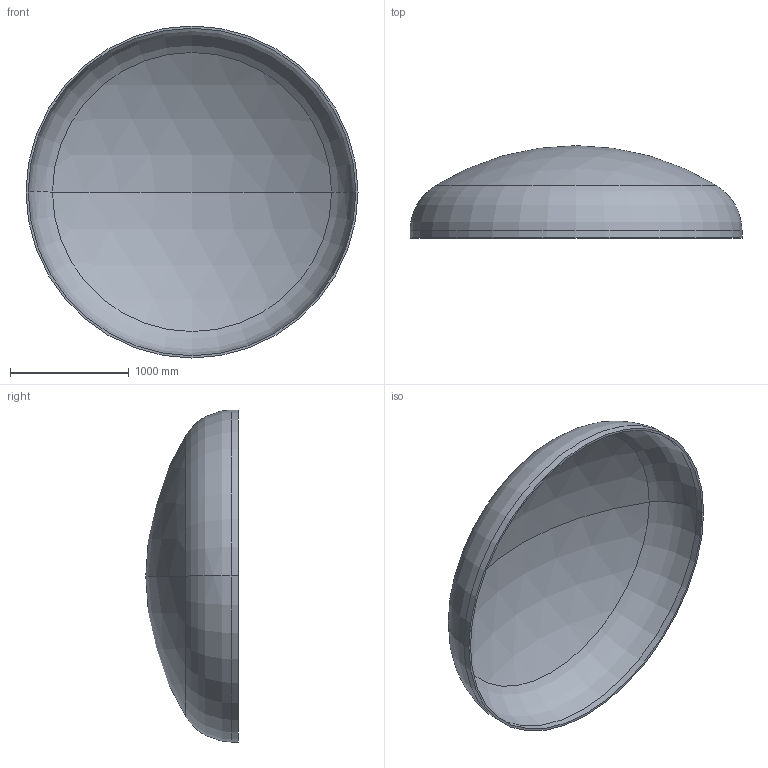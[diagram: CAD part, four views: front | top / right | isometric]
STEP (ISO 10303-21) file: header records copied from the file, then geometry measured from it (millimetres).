
FILE_DESCRIPTION (( 'STEP AP203' ), '1' );
FILE_NAME ('DIN 28013 Korbbogenform_-_Boden DIN 28013 - 2800 x 60 - I - s=19.step', '2016-07-01T16:46:15', ( '' ), ( '' ), 'SwSTEP 2.0', 'SolidWorks 2013', '' );
FILE_SCHEMA (( 'CONFIG_CONTROL_DESIGN' ));
Length unit declared in the file: millimetre
Products named in the file (1): DIN 28013 Korbbogenform_-_Boden DIN 28013 - 2800 x 60 - I - s=19
Bounding box: 2800 x 778.97 x 2800 mm (x, y, z)
Volume: 170461232.8 mm3; surface area: 18110035.4 mm2
Topology: 1 solids, 1 shells, 13 faces, 24 edges, 14 vertices
Faces by surface type: torus 4, cylinder 4, sphere 4, plane 1
Entity records: 407 total; most frequent: DIRECTION 72, CARTESIAN_POINT 52, ORIENTED_EDGE 48, AXIS2_PLACEMENT_3D 34, EDGE_CURVE 24, CIRCLE 20, EDGE_LOOP 14, VERTEX_POINT 14
